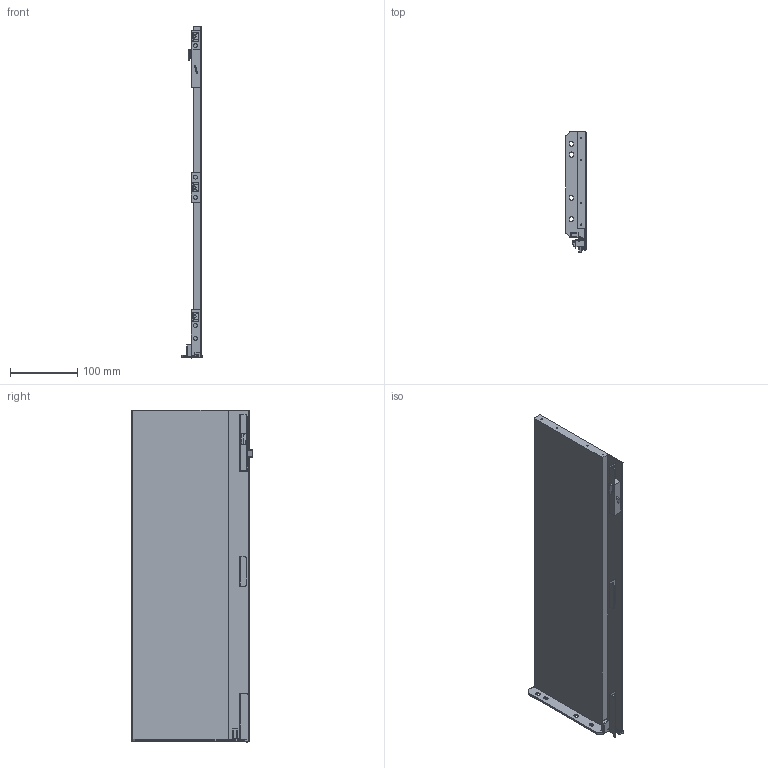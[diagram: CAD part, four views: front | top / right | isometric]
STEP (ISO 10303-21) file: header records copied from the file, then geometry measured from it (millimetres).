
FILE_DESCRIPTION (( 'STEP AP203' ), '1' );
FILE_NAME ('HE135001-R.STEP', '2021-03-30T01:44:20', ( 'Users' ), ( 'Microsoft' ), 'SwSTEP 2.0', 'SolidWorks 2018', '' );
FILE_SCHEMA (( 'CONFIG_CONTROL_DESIGN' ));
Length unit declared in the file: millimetre
Products named in the file (1): HE135001-R
Bounding box: 31 x 179.9 x 492.19 mm (x, y, z)
Volume: 966367.9 mm3; surface area: 201825.2 mm2
Topology: 1 solids, 1 shells, 493 faces, 1215 edges, 724 vertices
Faces by surface type: cylinder 206, plane 172, torus 82, bspline 24, cone 8, sphere 1
Entity records: 14857 total; most frequent: CARTESIAN_POINT 3170, DIRECTION 2531, ORIENTED_EDGE 2410, EDGE_CURVE 1205, AXIS2_PLACEMENT_3D 951, VERTEX_POINT 724, LINE 629, VECTOR 629
